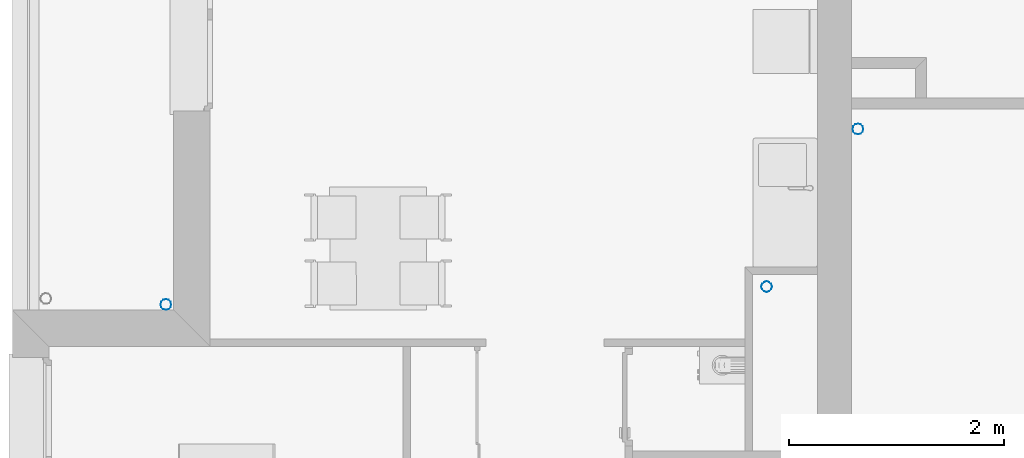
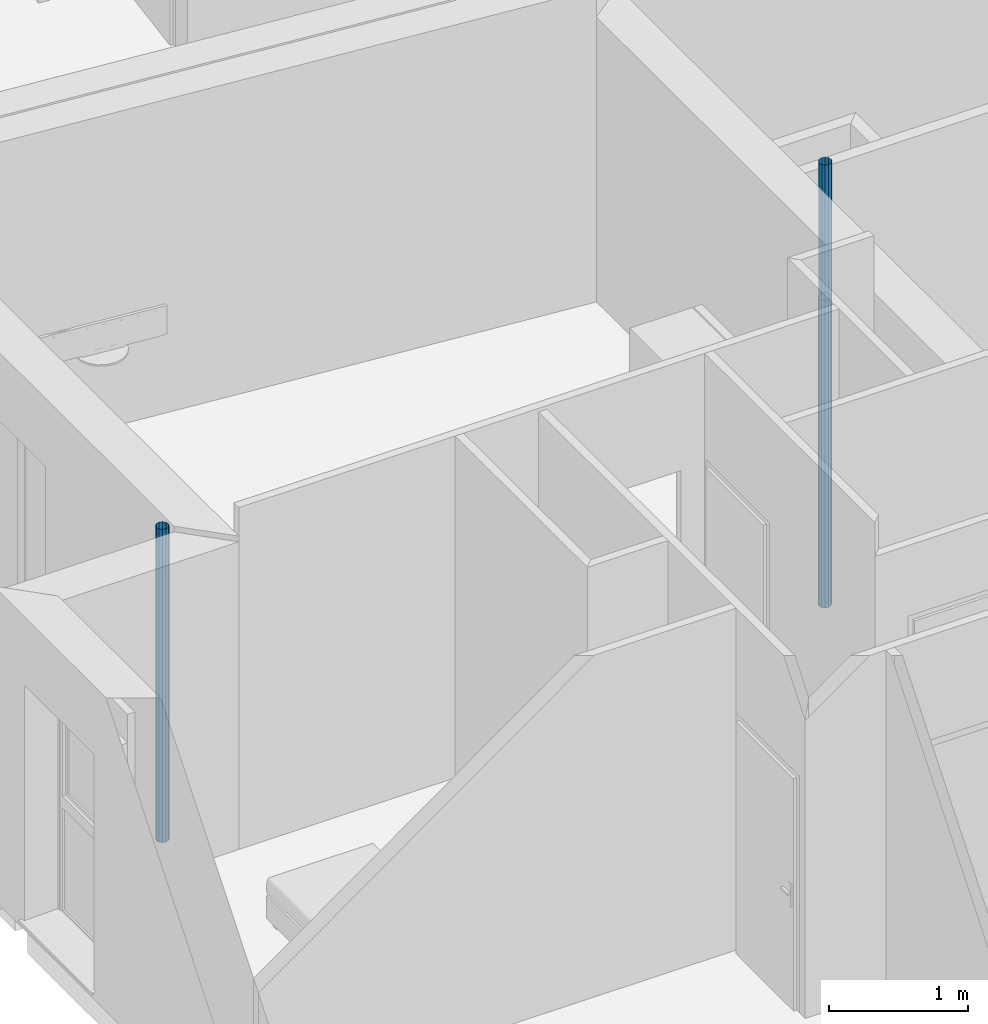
# One storey, part 93 of 171: 3 discrete accessories.
"""IFC2X3 building model written with IfcOpenShell, lengths in millimetres."""

from ifc_helpers import new_model, entity, si_unit, converted_unit, derived_unit, money_unit, direction, frame, origin_with_axes, place, context, subcontext, project, spatial, open_shell, surface_model, source, transform, mapped, type_object, element, save


model = new_model("IFC2X3")

# Units and contexts
model_context = context("Model", 3, precision=0.01, world=origin_with_axes(), true_north=direction((0.0, 1.0)))
body_context = subcontext(model_context, "Body", "Model", "MODEL_VIEW")
ifc_project = project(units=[si_unit("LENGTHUNIT", "METRE", prefix="MILLI"), si_unit("AREAUNIT", "SQUARE_METRE"), si_unit("VOLUMEUNIT", "CUBIC_METRE"), converted_unit("PLANEANGLEUNIT", "DEGREE", entity("IfcPlaneAngleMeasure", 0.0174532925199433), si_unit("PLANEANGLEUNIT", "RADIAN"), dimensions=[0, 0, 0, 0, 0, 0, 0]), money_unit("USD"), converted_unit("TIMEUNIT", "Year", entity("IfcTimeMeasure", 31557600.0), si_unit("TIMEUNIT", "SECOND"), dimensions=[0, 0, 1, 0, 0, 0, 0]), si_unit("MASSUNIT", "GRAM", prefix="KILO"), si_unit("THERMODYNAMICTEMPERATUREUNIT", "DEGREE_CELSIUS"), si_unit("LUMINOUSINTENSITYUNIT", "LUMEN"), si_unit("ENERGYUNIT", "JOULE", prefix="MEGA"), derived_unit("THERMALCONDUCTANCEUNIT", [(si_unit("POWERUNIT", "WATT"), 1), (si_unit("LENGTHUNIT", "METRE"), -1), (si_unit("THERMODYNAMICTEMPERATUREUNIT", "KELVIN"), -1)]), derived_unit("SPECIFICHEATCAPACITYUNIT", [(si_unit("ENERGYUNIT", "JOULE"), 1), (si_unit("MASSUNIT", "GRAM", prefix="KILO"), -1), (si_unit("THERMODYNAMICTEMPERATUREUNIT", "KELVIN"), -1)]), derived_unit("MASSDENSITYUNIT", [(si_unit("MASSUNIT", "GRAM", prefix="KILO"), 1), (si_unit("VOLUMEUNIT", "CUBIC_METRE"), -1)])], contexts=[model_context])

# Site, building, storey
site_placement = place(None, origin_with_axes())
site = spatial("IfcSite", under=ifc_project, at=site_placement, Name="Site", CompositionType="ELEMENT")
building_placement = place(site_placement, origin_with_axes())
building = spatial("IfcBuilding", under=site, at=building_placement, Name="Bâtiment", CompositionType="ELEMENT")
storey_placement = place(building_placement, frame((0.0, 0.0, 3000.0), z_axis=(0.0, 0.0, 1.0), x_axis=(1.0, 0.0, 0.0)))
storey = spatial("IfcBuildingStorey", under=building, at=storey_placement, Name="rdc", CompositionType="ELEMENT", Elevation=3000.0)

# Discrete accessories
discrete_accessory_type = type_object("IfcDiscreteAccessoryType", Name="Tuyau descente 27")
shared_shape_1 = source(origin_with_axes(), body_context, "Body", "SurfaceModel", [
    surface_model("IfcShellBasedSurfaceModel", [(50.0, 0.0, 2700.0), (43.30127018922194, -25.0, 2700.0), (43.30127018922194, -25.0, 0.0), (50.0, 0.0, 0.0), (25.00000000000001, -43.30127018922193, 2700.0), (25.00000000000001, -43.30127018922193, 0.0), (43.30127018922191, 25.00000000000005, 2700.0), (43.30127018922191, 25.00000000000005, 0.0), (0.0, -50.0, 2700.0), (0.0, -50.0, 0.0), (24.99999999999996, 43.30127018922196, 2700.0), (24.99999999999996, 43.30127018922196, 0.0), (-24.99999999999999, -43.30127018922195, 2700.0), (-24.99999999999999, -43.30127018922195, 0.0), (0.0, 50.0, 2700.0), (0.0, 50.0, 0.0), (-43.30127018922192, -25.00000000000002, 2700.0), (-43.30127018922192, -25.00000000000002, 0.0), (-25.00000000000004, 43.30127018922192, 2700.0), (-25.00000000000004, 43.30127018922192, 0.0), (-50.0, 0.0, 2700.0), (-50.0, 0.0, 0.0), (-43.30127018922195, 24.99999999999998, 2700.0), (-43.30127018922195, 24.99999999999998, 0.0)], [open_shell([[[0, 1, 2, 3]], [[1, 4, 5, 2]], [[6, 0, 3, 7]], [[4, 8, 9, 5]], [[10, 6, 7, 11]], [[8, 12, 13, 9]], [[14, 10, 11, 15]], [[12, 16, 17, 13]], [[18, 14, 15, 19]], [[16, 20, 21, 17]], [[22, 18, 19, 23]], [[20, 22, 23, 21]]])]),
])
for number, where, z_axis, x_axis, name in (
    (1, (2223660.409835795, -625854.7847658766, 0.0), (0.0, 0.0, 1.0), (1.0, 0.0, 0.0), "Obj.-318"),
    (2, (2224511.53471752, -624386.5804250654, 0.0), (0.0, 0.0, 1.0), (1.0, 0.0, 0.0), "Obj.-318"),
):
    element("IfcDiscreteAccessory", number, at=place(storey_placement, frame(where, z_axis=z_axis, x_axis=x_axis)), inside=storey, type_object=discrete_accessory_type, Name=name, context=body_context, shape_type="MappedRepresentation", body=[
        mapped(shared_shape_1, transform((0.0, 0.0, 0.0))),
    ])
shared_shape_2 = source(origin_with_axes(), body_context, "Body", "SurfaceModel", [
    surface_model("IfcShellBasedSurfaceModel", [(50.0, 0.0, 2750.0), (43.30127018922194, -25.0, 2750.0), (43.30127018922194, -25.0, 0.0), (50.0, 0.0, 0.0), (25.00000000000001, -43.30127018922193, 2750.0), (25.00000000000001, -43.30127018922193, 0.0), (43.30127018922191, 25.00000000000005, 2750.0), (43.30127018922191, 25.00000000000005, 0.0), (0.0, -50.0, 2750.0), (0.0, -50.0, 0.0), (24.99999999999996, 43.30127018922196, 2750.0), (24.99999999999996, 43.30127018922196, 0.0), (-24.99999999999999, -43.30127018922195, 2750.0), (-24.99999999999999, -43.30127018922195, 0.0), (0.0, 50.0, 2750.0), (0.0, 50.0, 0.0), (-43.30127018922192, -25.00000000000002, 2750.0), (-43.30127018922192, -25.00000000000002, 0.0), (-25.00000000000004, 43.30127018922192, 2750.0), (-25.00000000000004, 43.30127018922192, 0.0), (-50.0, 0.0, 2750.0), (-50.0, 0.0, 0.0), (-43.30127018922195, 24.99999999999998, 2750.0), (-43.30127018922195, 24.99999999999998, 0.0)], [open_shell([[[0, 1, 2, 3]], [[1, 4, 5, 2]], [[6, 0, 3, 7]], [[4, 8, 9, 5]], [[10, 6, 7, 11]], [[8, 12, 13, 9]], [[14, 10, 11, 15]], [[12, 16, 17, 13]], [[18, 14, 15, 19]], [[16, 20, 21, 17]], [[22, 18, 19, 23]], [[20, 22, 23, 21]]])]),
])
discrete_accessory_placement = place(storey_placement, frame((2218064.406529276, -626021.2141322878, 0.0), z_axis=(0.0, 0.0, 1.0), x_axis=(1.0, 0.0, 0.0)))
element("IfcDiscreteAccessory", 3, at=discrete_accessory_placement, inside=storey, type_object=discrete_accessory_type, Name="Obj.-318", context=body_context, shape_type="MappedRepresentation", body=[
    mapped(shared_shape_2, transform((0.0, 0.0, 0.0))),
])

save(model, "model.ifc")
